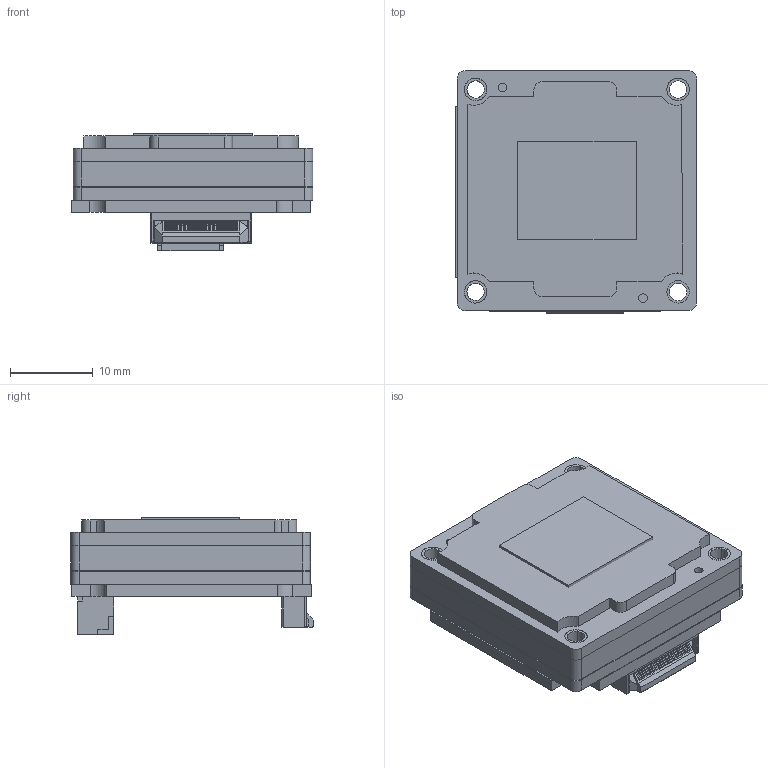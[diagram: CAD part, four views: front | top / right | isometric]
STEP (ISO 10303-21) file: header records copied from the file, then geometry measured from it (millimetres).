
FILE_DESCRIPTION (( 'STEP AP203' ), '1' );
FILE_NAME ('BFS-U3-63S4M(C)-BD2.STEP', '2020-11-23T19:13:47', ( '' ), ( '' ), 'SwSTEP 2.0', 'SolidWorks 2018', '' );
FILE_SCHEMA (( 'CONFIG_CONTROL_DESIGN' ));
Length unit declared in the file: millimetre
Products named in the file (1): BFS-U3-63S4M(C)-BD2
Bounding box: 29.21 x 29.3 x 14.25 mm (x, y, z)
Surface area: 11250.1 mm2 (no closed solid volume)
Topology: 0 solids, 14 shells, 1109 faces, 3045 edges, 2012 vertices
Faces by surface type: plane 879, cylinder 222, torus 4, bspline 4
Entity records: 35562 total; most frequent: CARTESIAN_POINT 6963, ORIENTED_EDGE 6086, DIRECTION 5611, EDGE_CURVE 3045, LINE 2575, VECTOR 2575, VERTEX_POINT 2012, AXIS2_PLACEMENT_3D 1518
